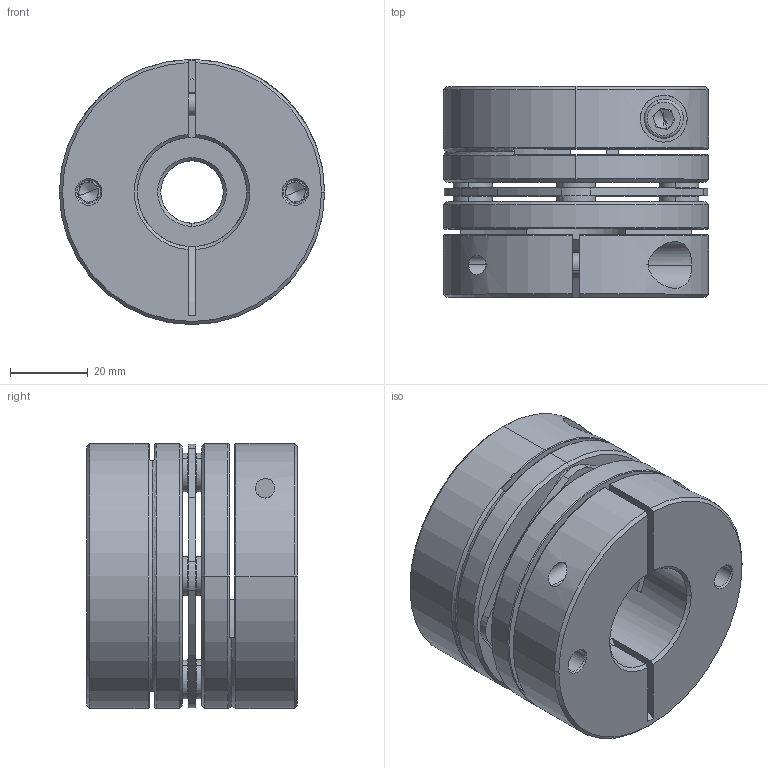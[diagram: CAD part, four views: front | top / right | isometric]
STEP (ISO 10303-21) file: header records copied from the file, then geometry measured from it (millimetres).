
FILE_DESCRIPTION (( 'STEP AP203' ), '1' );
FILE_NAME ('LD1-D68-16-28.STEP', '2021-10-26T07:49:57', ( '' ), ( '' ), 'SwSTEP 2.0', 'SolidWorks 2018', '' );
FILE_SCHEMA (( 'CONFIG_CONTROL_DESIGN' ));
Length unit declared in the file: millimetre
Products named in the file (2): LD1-D68-16-28; 錨璃101^LD1-D68
Assembly tree (1 placements, depth 2):
  LD1-D68-16-28
    錨璃101^LD1-D68
Bounding box: 68 x 54 x 68 mm (x, y, z)
Volume: 146698.2 mm3; surface area: 46421.3 mm2
Topology: 1 solids, 15 shells, 443 faces, 1063 edges, 652 vertices
Faces by surface type: cylinder 161, plane 138, cone 122, torus 22
Entity records: 13477 total; most frequent: CARTESIAN_POINT 2615, DIRECTION 2435, ORIENTED_EDGE 2094, EDGE_CURVE 1047, AXIS2_PLACEMENT_3D 988, VERTEX_POINT 652, CIRCLE 541, EDGE_LOOP 523
